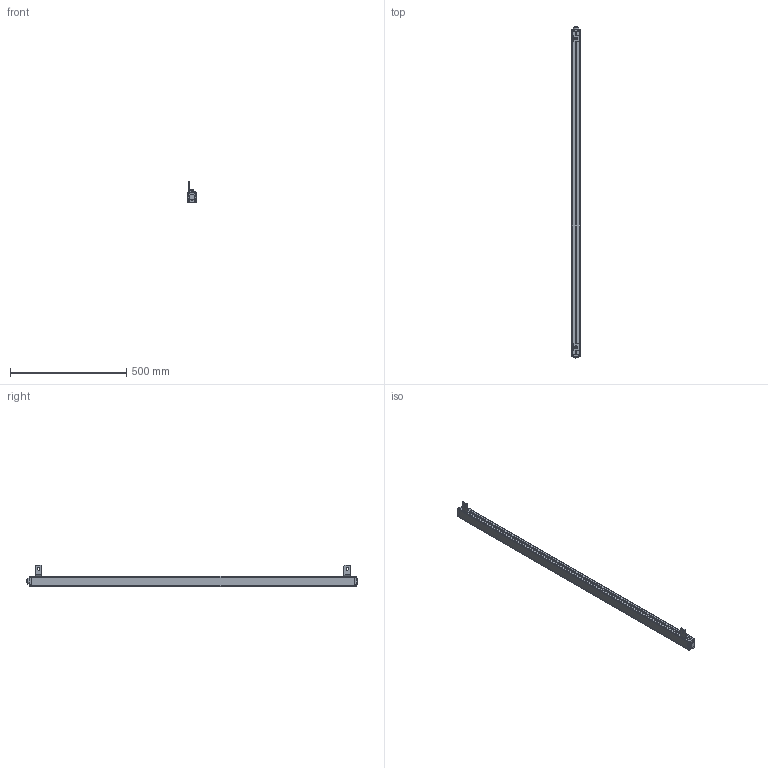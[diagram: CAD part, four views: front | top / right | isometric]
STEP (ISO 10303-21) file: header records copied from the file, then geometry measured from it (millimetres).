
FILE_DESCRIPTION((''),'2;1');
FILE_NAME('ESCL-00_ASM','2021-07-17T11:10:06',('18720616900'),(''),'CREO PARAMETRIC BY PTC INC, 2019010','CREO PARAMETRIC BY PTC INC, 2019010','');
FILE_SCHEMA(('CONFIG_CONTROL_DESIGN'));
Products named in the file (12): ESCL-00; ESCL-3-SOLID1000; ESCL-4-SOLID1000; HKCT1_-4-SOLID1; L10001; M6-8--0001; M6-1--00; M6-1-00; 00; M6-80001_ASM; L1--0001_ASM; ESCL-00_ASM
Assembly tree (12 placements, depth 4):
  ESCL-00_ASM
    ESCL-00
    ESCL-3-SOLID1000
    ESCL-4-SOLID1000
    HKCT1_-4-SOLID1
    L1--0001_ASM  x2
      L10001
      M6-80001_ASM
        M6-8--0001
        M6-1--00
        M6-1-00
        00
Bounding box: 36.1 x 1425.1 x 91.11 mm (x, y, z)
Volume: 2036779.8 mm3; surface area: 300033.9 mm2
Topology: 14 solids, 14 shells, 625 faces, 1645 edges, 1070 vertices
Faces by surface type: plane 226, cylinder 208, cone 78, bspline 66, torus 47
Entity records: 76177 total; most frequent: CARTESIAN_POINT 63991, ORIENTED_EDGE 2664, DIRECTION 2275, EDGE_CURVE 1332, VERTEX_POINT 872, AXIS2_PLACEMENT_3D 816, VECTOR 643, LINE 643
